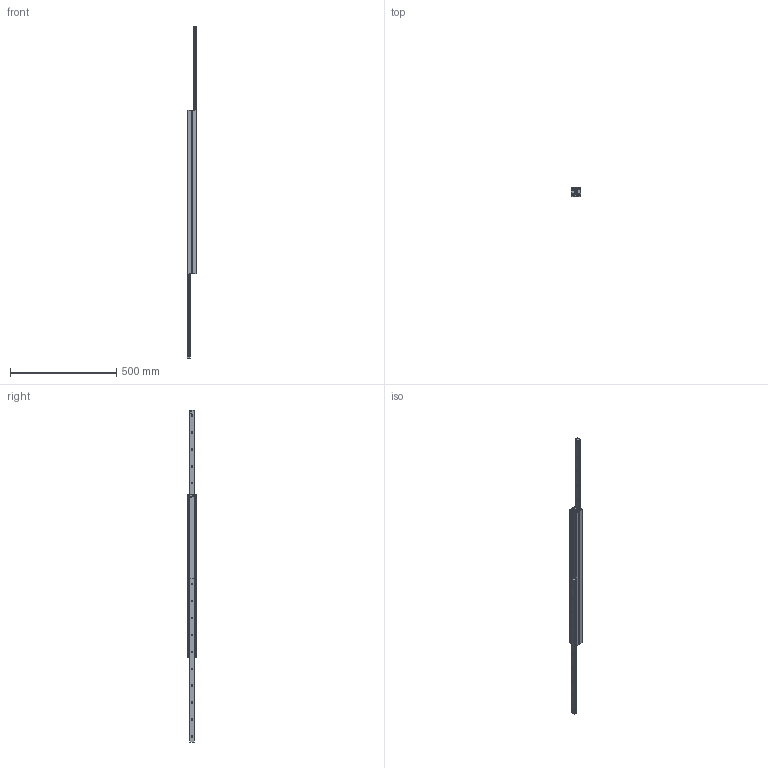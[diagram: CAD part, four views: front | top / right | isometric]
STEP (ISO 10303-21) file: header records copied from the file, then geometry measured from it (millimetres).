
FILE_DESCRIPTION( ( 'STEP AP214' ), '1' );
FILE_NAME( 'p:/temp/worker_81/temp/exporttempdir_3000_638_guvyN/format_1/DEF43-770796.stp', '2020-03-20T19:54:43', ( 'License CC BY-ND 4.0' ), ( 'CADENAS' ), ' ', 'PARTsolutions', ' ' );
FILE_SCHEMA( ( 'AUTOMOTIVE_DESIGN { 1 0 10303 214 1 1 1 1 }' ) );
Length unit declared in the file: millimetre
Products named in the file (4): DEF43-770796; _432177079612-gf; _43217707961-ei; _432177079611-gf
Assembly tree (4 placements, depth 2):
  DEF43-770796
    _432177079612-gf
    _43217707961-ei  x2
    _432177079611-gf
Bounding box: 44 x 43 x 1566 mm (x, y, z)
Volume: 951979.5 mm3; surface area: 364154.5 mm2
Topology: 4 solids, 4 shells, 212 faces, 532 edges, 340 vertices
Faces by surface type: plane 102, cylinder 66, cone 44
Full cylindrical faces by diameter (mm): 4.134 x2, 6.647 x20, 7 x2
Entity records: 6004 total; most frequent: DIRECTION 828, CARTESIAN_POINT 769, ORIENTED_EDGE 686, EDGE_CURVE 343, AXIS2_PLACEMENT_3D 316, EDGE_LOOP 276, VERTEX_POINT 257, LINE 196
